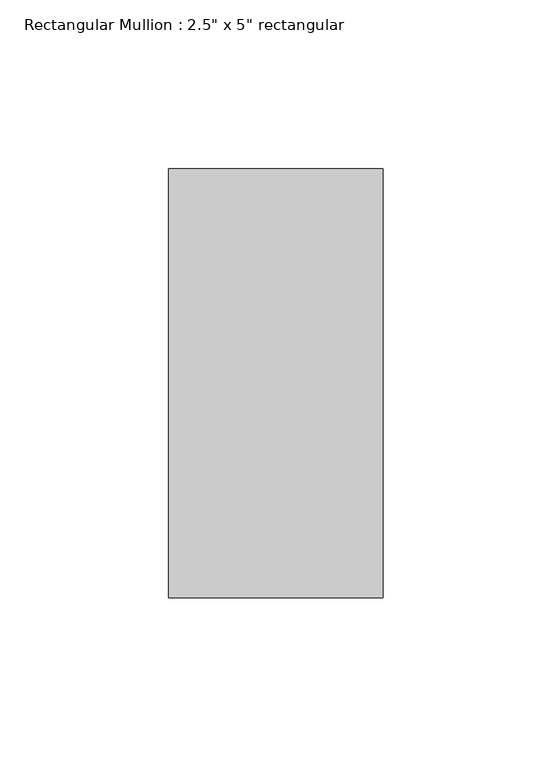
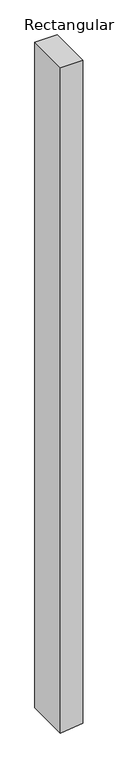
"""IFC4 building model written with IfcOpenShell, lengths in millimetres: member geometry."""

from ifc_helpers import new_model, si_unit, frame, origin, place, context, project, spatial, polyline, outline, extrude, source, transform, mapped, element, save


def member_18682007(model_context):
    return source(origin(), model_context, "Body", "SweptSolid", [
        extrude(outline(polyline([(0.0, 31.75), (0.0, -31.75), (-2017.506255, -31.75), (-2014.7445386, -7.0583463), (-2010.4038959, 31.75), (0.0, 31.75)])), frame((0.0, -63.5, 0.0), z_axis=(0.0, 1.0, 0.0), x_axis=(0.0, 0.0, 1.0)), (0.0, 0.0, 1.0), 127.0),
    ])


if __name__ == "__main__":
    model = new_model("IFC4")
    model_context = context("Model", 3, world=origin())
    ifc_project = project(units=[si_unit("LENGTHUNIT", "METRE", prefix="MILLI")], contexts=[model_context])
    site = spatial("IfcSite", under=ifc_project)
    building = spatial("IfcBuilding", under=site)
    placement = place(None, origin())
    member_shape = member_18682007(model_context)
    element("IfcMember", 1, ObjectType="Rectangular Mullion : 2.5\" x 5\" rectangular", at=placement, inside=building, context=model_context, shape_type="MappedRepresentation", body=[
        mapped(member_shape, transform((0.0, 0.0, 0.0), x_axis=(1.0, 0.0, 0.0), y_axis=(0.0, 1.0, 0.0), z_axis=(0.0, 0.0, 1.0))),
    ])
    save(model, "model.ifc")
